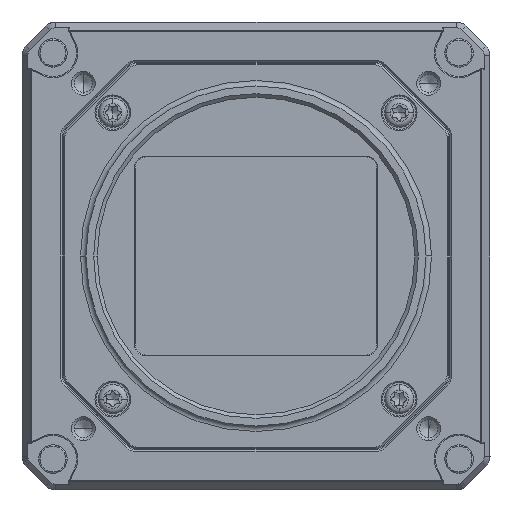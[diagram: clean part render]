
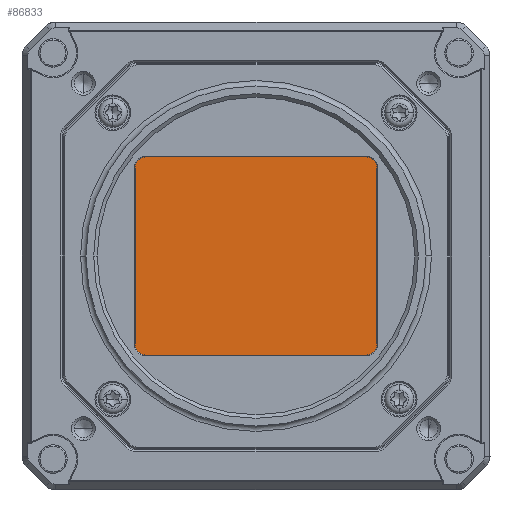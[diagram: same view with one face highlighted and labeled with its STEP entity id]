
A CAD part, left-side view. The second image highlights one B-rep face of the part: STEP entity #86833.
In plain terms, the highlighted planar face has unit normal (-1, 0, 0).
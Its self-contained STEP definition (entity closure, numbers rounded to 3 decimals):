
#32698=CARTESIAN_POINT('',(5.8,19.7,
-15.77));
#32699=DIRECTION('',(1.,0.,0.));
#32700=DIRECTION('',(0.,0.,-1.));
#32701=AXIS2_PLACEMENT_3D('',#32698,#32699,#32700);
#32707=CARTESIAN_POINT('',(5.8,-19.7,
15.77));
#32708=DIRECTION('',(1.,0.,0.));
#32709=DIRECTION('',(0.,0.,1.));
#32710=AXIS2_PLACEMENT_3D('',#32707,#32708,#32709);
#32712=DIRECTION('',(0.,-1.,0.));
#32713=VECTOR('',#32712,39.4);
#32714=CARTESIAN_POINT('',(5.8,19.7,17.92));
#32715=LINE('',#32714,#32713);
#32720=CARTESIAN_POINT('',(5.8,19.7,15.77));
#32721=DIRECTION('',(1.,0.,0.));
#32722=DIRECTION('',(0.,1.,0.));
#32723=AXIS2_PLACEMENT_3D('',#32720,#32721,#32722);
#32729=DIRECTION('',(0.,0.,-1.));
#32730=VECTOR('',#32729,31.54);
#32731=CARTESIAN_POINT('',(5.8,21.85,15.77));
#32732=LINE('',#32731,#32730);
#32737=DIRECTION('',(0.,0.,1.));
#32738=VECTOR('',#32737,31.54);
#32739=CARTESIAN_POINT('',(5.8,-21.85,
-15.77));
#32740=LINE('',#32739,#32738);
#32749=CARTESIAN_POINT('',(5.8,-19.7,
-15.77));
#32750=DIRECTION('',(1.,0.,0.));
#32751=DIRECTION('',(0.,-1.,0.));
#32752=AXIS2_PLACEMENT_3D('',#32749,#32750,#32751);
#32758=DIRECTION('',(0.,-1.,0.));
#32759=VECTOR('',#32758,39.4);
#32760=CARTESIAN_POINT('',(5.8,19.7,
-17.92));
#32761=LINE('',#32760,#32759);
#40361=CARTESIAN_POINT('',(5.8,-19.7,
17.92));
#40362=CARTESIAN_POINT('',(5.8,-21.85,
15.77));
#40363=VERTEX_POINT('',#40361);
#40364=VERTEX_POINT('',#40362);
#40365=CARTESIAN_POINT('',(5.8,19.7,17.92));
#40366=VERTEX_POINT('',#40365);
#40367=CARTESIAN_POINT('',(5.8,21.85,15.77));
#40368=VERTEX_POINT('',#40367);
#40369=CARTESIAN_POINT('',(5.8,21.85,
-15.77));
#40370=VERTEX_POINT('',#40369);
#40371=CARTESIAN_POINT('',(5.8,19.7,
-17.92));
#40372=VERTEX_POINT('',#40371);
#40373=CARTESIAN_POINT('',(5.8,-19.7,
-17.92));
#40374=VERTEX_POINT('',#40373);
#40375=CARTESIAN_POINT('',(5.8,-21.85,
-15.77));
#40376=VERTEX_POINT('',#40375);
#86811=CARTESIAN_POINT('',(5.8,0.,
0.));
#86812=DIRECTION('',(1.,0.,0.));
#86813=DIRECTION('',(0.,1.,0.));
#86814=AXIS2_PLACEMENT_3D('',#86811,#86812,#86813);
#86815=PLANE('',#86814);
#86817=ORIENTED_EDGE('',*,*,#86816,.T.);
#86819=ORIENTED_EDGE('',*,*,#86818,.F.);
#86821=ORIENTED_EDGE('',*,*,#86820,.T.);
#86823=ORIENTED_EDGE('',*,*,#86822,.F.);
#86824=ORIENTED_EDGE('',*,*,#86801,.T.);
#86826=ORIENTED_EDGE('',*,*,#86825,.F.);
#86828=ORIENTED_EDGE('',*,*,#86827,.T.);
#86830=ORIENTED_EDGE('',*,*,#86829,.T.);
#86831=EDGE_LOOP('',(#86817,#86819,#86821,#86823,#86824,#86826,#86828,#86830));
#86832=FACE_OUTER_BOUND('',#86831,.F.);
#86833=ADVANCED_FACE('',(#86832),#86815,.F.);
#32702=CIRCLE('',#32701,2.15);
#32711=CIRCLE('',#32710,2.15);
#32724=CIRCLE('',#32723,2.15);
#32753=CIRCLE('',#32752,2.15);
#86801=EDGE_CURVE('',#40372,#40370,#32702,.T.);
#86816=EDGE_CURVE('',#40363,#40364,#32711,.T.);
#86818=EDGE_CURVE('',#40376,#40364,#32740,.T.);
#86820=EDGE_CURVE('',#40376,#40374,#32753,.T.);
#86822=EDGE_CURVE('',#40372,#40374,#32761,.T.);
#86825=EDGE_CURVE('',#40368,#40370,#32732,.T.);
#86827=EDGE_CURVE('',#40368,#40366,#32724,.T.);
#86829=EDGE_CURVE('',#40366,#40363,#32715,.T.);
